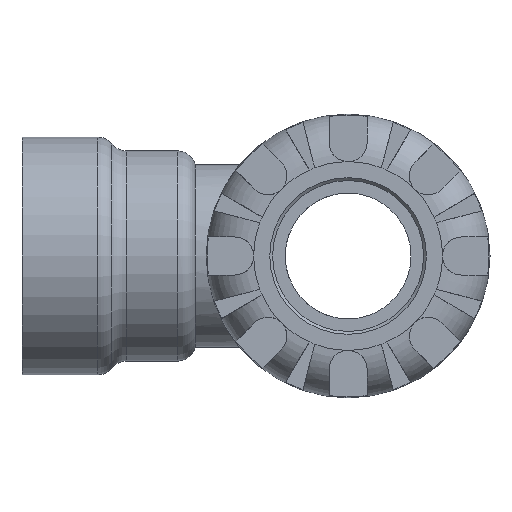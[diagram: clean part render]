
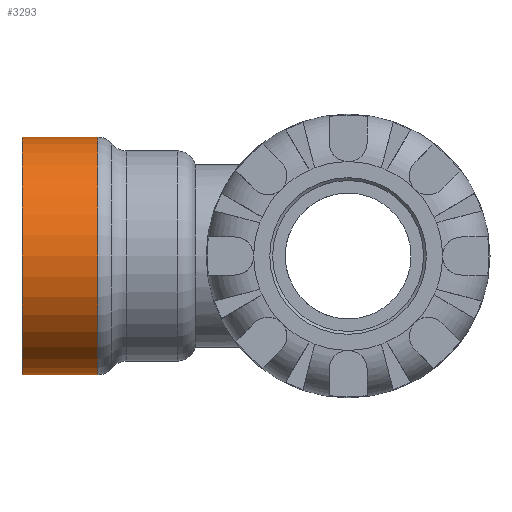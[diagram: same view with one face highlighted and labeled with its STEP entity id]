
A CAD part, left-side view. The second image highlights one B-rep face of the part: STEP entity #3293.
In plain terms, the highlighted cylindrical face has radius 19.689 mm (diameter 39.378 mm), a full revolution.
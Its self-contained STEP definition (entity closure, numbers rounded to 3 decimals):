
#18=CYLINDRICAL_SURFACE('',#3508,19.689);
#89=FACE_BOUND('',#492,.T.);
#283=FACE_OUTER_BOUND('',#491,.T.);
#491=EDGE_LOOP('',(#2037));
#492=EDGE_LOOP('',(#2038));
#732=CIRCLE('',#3506,19.689);
#734=CIRCLE('',#3509,19.689);
#1238=VERTEX_POINT('',#5084);
#1240=VERTEX_POINT('',#5089);
#1551=EDGE_CURVE('',#1238,#1238,#732,.T.);
#1553=EDGE_CURVE('',#1240,#1240,#734,.T.);
#2037=ORIENTED_EDGE('',*,*,#1553,.T.);
#2038=ORIENTED_EDGE('',*,*,#1551,.F.);
#3293=ADVANCED_FACE('',(#283,#89),#18,.T.);
#3506=AXIS2_PLACEMENT_3D('',#5085,#3905,#3906);
#3508=AXIS2_PLACEMENT_3D('',#5088,#3909,#3910);
#3509=AXIS2_PLACEMENT_3D('',#5090,#3911,#3912);
#3905=DIRECTION('center_axis',(0.,-1.,0.));
#3906=DIRECTION('ref_axis',(-1.,0.,0.));
#3909=DIRECTION('center_axis',(0.,-1.,0.));
#3910=DIRECTION('ref_axis',(-1.,0.,0.));
#3911=DIRECTION('center_axis',(0.,-1.,0.));
#3912=DIRECTION('ref_axis',(1.,0.,0.));
#5084=CARTESIAN_POINT('',(19.689,41.461,0.));
#5085=CARTESIAN_POINT('Origin',(0.,41.461,
0.));
#5088=CARTESIAN_POINT('Origin',(0.,46.833,0.));
#5089=CARTESIAN_POINT('',(-19.689,54.,0.));
#5090=CARTESIAN_POINT('Origin',(0.,54.,0.));
